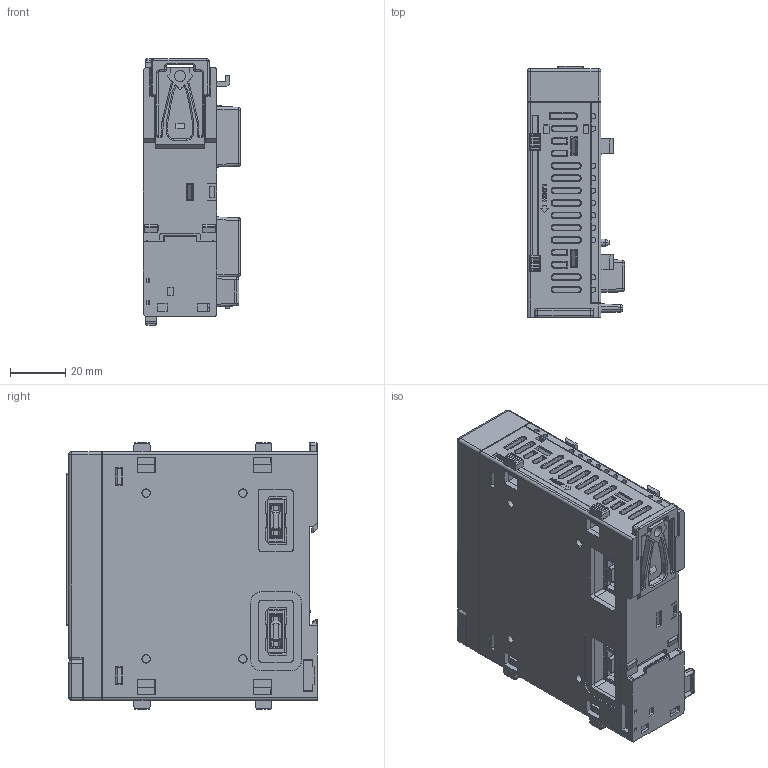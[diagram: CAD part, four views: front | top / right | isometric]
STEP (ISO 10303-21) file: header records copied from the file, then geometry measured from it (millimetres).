
FILE_DESCRIPTION((''),'2;1');
FILE_NAME('XCPU-M16X-HI_ASM','2022-06-22T22:19:56',('Jacky Chang'),(''),'CREO PARAMETRIC BY PTC INC, 2021284','CREO PARAMETRIC BY PTC INC, 2021284','');
FILE_SCHEMA(('CONFIG_CONTROL_DESIGN'));
Products named in the file (2): XCPU-M16X-UP-COVER; XCPU-M16X-HI_ASM
Assembly tree (1 placements, depth 2):
  XCPU-M16X-HI_ASM
    XCPU-M16X-UP-COVER
Bounding box: 35.2 x 90.8 x 96.6 mm (x, y, z)
Volume: 200639.6 mm3; surface area: 45325.6 mm2
Topology: 1 solids, 2 shells, 2638 faces, 7023 edges, 4444 vertices
Faces by surface type: plane 1751, cylinder 580, torus 90, cone 89, extrusion 60, sphere 56, bspline 12
Entity records: 82092 total; most frequent: CARTESIAN_POINT 16770, ORIENTED_EDGE 13994, DIRECTION 12742, EDGE_CURVE 6997, VECTOR 5532, LINE 5472, VERTEX_POINT 4444, AXIS2_PLACEMENT_3D 3605
